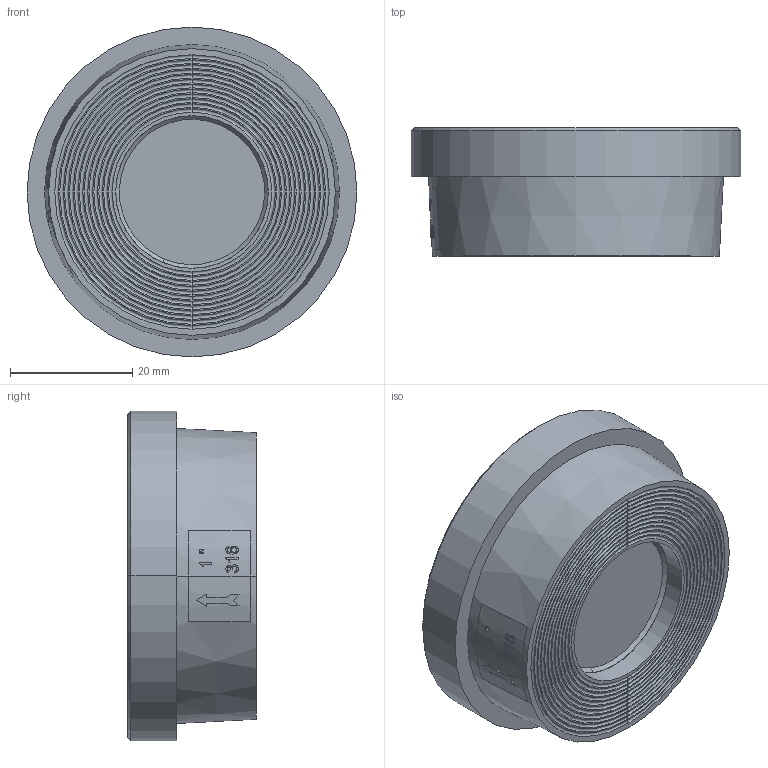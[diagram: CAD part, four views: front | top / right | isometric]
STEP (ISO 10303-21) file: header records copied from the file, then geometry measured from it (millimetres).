
FILE_DESCRIPTION (( 'STEP AP203' ), '1' );
FILE_NAME ('MV-53-000 DN25.STEP', '2022-08-18T08:14:57', ( '' ), ( '' ), 'SwSTEP 2.0', 'SolidWorks 2012', '' );
FILE_SCHEMA (( 'CONFIG_CONTROL_DESIGN' ));
Length unit declared in the file: millimetre
Products named in the file (4): MV-53-000 DN25; MV-53 DN25 DISC; MV-53 DN25 BODY; MV-53 DN25 SPRING COVER
Assembly tree (3 placements, depth 2):
  MV-53-000 DN25
    MV-53 DN25 BODY
    MV-53 DN25 DISC
    MV-53 DN25 SPRING COVER
Bounding box: 54 x 21 x 54 mm (x, y, z)
Volume: 19181.8 mm3; surface area: 13802.1 mm2
Topology: 3 solids, 3 shells, 247 faces, 617 edges, 408 vertices
Faces by surface type: plane 92, cylinder 48, torus 46, bspline 41, cone 20
Entity records: 9655 total; most frequent: CARTESIAN_POINT 3515, ORIENTED_EDGE 1234, DIRECTION 1163, EDGE_CURVE 617, AXIS2_PLACEMENT_3D 492, VERTEX_POINT 408, EDGE_LOOP 283, CIRCLE 280
